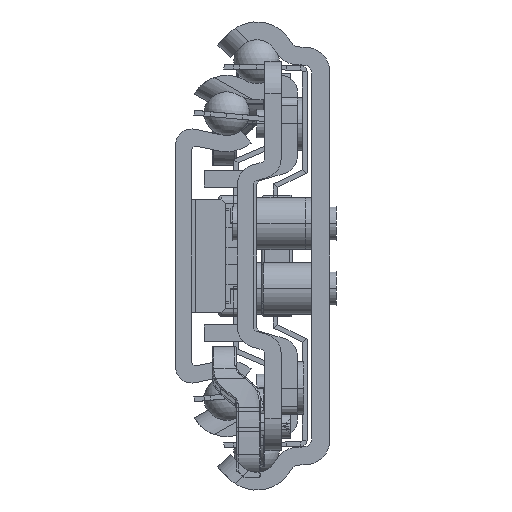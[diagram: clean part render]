
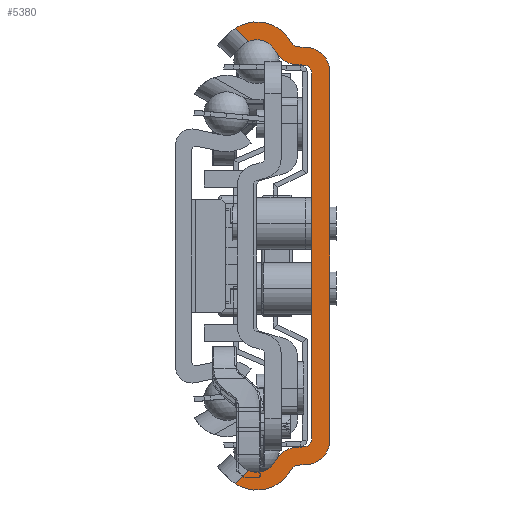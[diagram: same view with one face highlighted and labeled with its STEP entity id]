
A CAD part, left-side view. The second image highlights one B-rep face of the part: STEP entity #5380.
In plain terms, the highlighted planar face has unit normal (-1, 0, 0).
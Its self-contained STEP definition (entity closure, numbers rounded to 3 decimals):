
#1=DIRECTION('',(0.,0.717,-0.697));
#2=VECTOR('',#1,2.305);
#3=CARTESIAN_POINT('',(-550.,9.972,-26.461));
#4=LINE('',#3,#2);
#5=CARTESIAN_POINT('',(-550.,9.,-24.05));
#6=DIRECTION('',(-1.,0.,0.));
#7=DIRECTION('',(0.,0.374,-0.927));
#8=AXIS2_PLACEMENT_3D('',#5,#6,#7);
#10=CARTESIAN_POINT('',(-550.,4.005,-26.582));
#11=DIRECTION('',(-1.,0.,0.));
#12=DIRECTION('',(0.,0.07,0.998));
#13=AXIS2_PLACEMENT_3D('',#10,#11,#12);
#15=DIRECTION('',(0.,-0.998,0.07));
#16=VECTOR('',#15,1.087);
#17=CARTESIAN_POINT('',(-550.,4.214,-23.589));
#18=LINE('',#17,#16);
#19=DIRECTION('',(0.,0.,1.));
#20=VECTOR('',#19,45.032);
#21=CARTESIAN_POINT('',(-550.,2.2,-22.516));
#22=LINE('',#21,#20);
#23=DIRECTION('',(0.,0.998,0.07));
#24=VECTOR('',#23,1.087);
#25=CARTESIAN_POINT('',(-550.,3.13,23.514));
#26=LINE('',#25,#24);
#27=CARTESIAN_POINT('',(-550.,4.005,26.582));
#28=DIRECTION('',(-1.,0.,0.));
#29=DIRECTION('',(0.,0.892,-0.452));
#30=AXIS2_PLACEMENT_3D('',#27,#28,#29);
#32=CARTESIAN_POINT('',(-550.,9.,24.05));
#33=DIRECTION('',(-1.,0.,0.));
#34=DIRECTION('',(0.,-0.892,0.452));
#35=AXIS2_PLACEMENT_3D('',#32,#33,#34);
#37=DIRECTION('',(0.,-0.717,-0.697));
#38=VECTOR('',#37,2.305);
#39=CARTESIAN_POINT('',(-550.,11.624,28.069));
#40=LINE('',#39,#38);
#41=CARTESIAN_POINT('',(-550.,9.,24.05));
#42=DIRECTION('',(1.,0.,0.));
#43=DIRECTION('',(0.,0.547,0.837));
#44=AXIS2_PLACEMENT_3D('',#41,#42,#43);
#46=DIRECTION('',(0.,-0.998,-0.07));
#47=VECTOR('',#46,1.161);
#48=CARTESIAN_POINT('',(-550.,3.949,25.776));
#49=LINE('',#48,#47);
#50=CARTESIAN_POINT('',(-550.,3.,22.702));
#51=DIRECTION('',(-1.,0.,0.));
#52=DIRECTION('',(0.,-1.,0.));
#53=AXIS2_PLACEMENT_3D('',#50,#51,#52);
#55=DIRECTION('',(0.,0.,-1.));
#56=VECTOR('',#55,45.405);
#57=CARTESIAN_POINT('',(-550.,0.,22.702));
#58=LINE('',#57,#56);
#59=CARTESIAN_POINT('',(-550.,3.,-22.702));
#60=DIRECTION('',(-1.,0.,0.));
#61=DIRECTION('',(0.,-0.07,-0.998));
#62=AXIS2_PLACEMENT_3D('',#59,#60,#61);
#64=DIRECTION('',(0.,0.998,-0.07));
#65=VECTOR('',#64,1.161);
#66=CARTESIAN_POINT('',(-550.,2.791,-25.695));
#67=LINE('',#66,#65);
#68=CARTESIAN_POINT('',(-550.,9.,-24.05));
#69=DIRECTION('',(1.,0.,0.));
#70=DIRECTION('',(0.,-0.883,-0.47));
#71=AXIS2_PLACEMENT_3D('',#68,#69,#70);
#79=CARTESIAN_POINT('',(-550.,11.624,-28.069));
#103=CARTESIAN_POINT('',(-550.,9.972,-26.461));
#195=CARTESIAN_POINT('',(-550.,11.624,28.069));
#201=CARTESIAN_POINT('',(-550.,3.879,26.774));
#202=DIRECTION('',(1.,0.,0.));
#203=DIRECTION('',(0.,0.07,-0.998));
#204=AXIS2_PLACEMENT_3D('',#201,#202,#203);
#1227=CARTESIAN_POINT('',(-550.,3.879,-26.774));
#1228=DIRECTION('',(1.,0.,0.));
#1229=DIRECTION('',(0.,0.883,0.47));
#1230=AXIS2_PLACEMENT_3D('',#1227,#1228,#1229);
#2322=CARTESIAN_POINT('',(-550.,3.2,-22.516));
#2323=DIRECTION('',(1.,0.,0.));
#2324=DIRECTION('',(0.,-1.,0.));
#2325=AXIS2_PLACEMENT_3D('',#2322,#2323,#2324);
#2340=CARTESIAN_POINT('',(-550.,3.2,22.516));
#2341=DIRECTION('',(1.,0.,0.));
#2342=DIRECTION('',(0.,-0.07,0.998));
#2343=AXIS2_PLACEMENT_3D('',#2340,#2341,#2342);
#2364=CARTESIAN_POINT('',(-550.,9.972,26.461));
#4197=CARTESIAN_POINT('',(-550.,2.2,-22.516));
#4199=VERTEX_POINT('',#4197);
#4201=CARTESIAN_POINT('',(-550.,3.13,-23.514));
#4203=VERTEX_POINT('',#4201);
#4205=CARTESIAN_POINT('',(-550.,3.13,23.514));
#4207=VERTEX_POINT('',#4205);
#4209=CARTESIAN_POINT('',(-550.,2.2,22.516));
#4211=VERTEX_POINT('',#4209);
#4213=CARTESIAN_POINT('',(-550.,3.949,25.776));
#4215=VERTEX_POINT('',#4213);
#4217=CARTESIAN_POINT('',(-550.,4.762,26.304));
#4219=VERTEX_POINT('',#4217);
#4221=CARTESIAN_POINT('',(-550.,4.762,-26.304));
#4223=VERTEX_POINT('',#4221);
#4225=CARTESIAN_POINT('',(-550.,3.949,-25.776));
#4227=VERTEX_POINT('',#4225);
#4229=CARTESIAN_POINT('',(-550.,4.214,-23.589));
#4230=CARTESIAN_POINT('',(-550.,6.681,-25.226));
#4231=VERTEX_POINT('',#4229);
#4232=VERTEX_POINT('',#4230);
#4237=CARTESIAN_POINT('',(-550.,6.681,25.226));
#4238=CARTESIAN_POINT('',(-550.,4.214,23.589));
#4239=VERTEX_POINT('',#4237);
#4240=VERTEX_POINT('',#4238);
#4245=CARTESIAN_POINT('',(-550.,0.,22.702));
#4246=CARTESIAN_POINT('',(-550.,2.791,25.695));
#4247=VERTEX_POINT('',#4245);
#4248=VERTEX_POINT('',#4246);
#4253=CARTESIAN_POINT('',(-550.,2.791,-25.695));
#4254=CARTESIAN_POINT('',(-550.,0.,-22.702));
#4255=VERTEX_POINT('',#4253);
#4256=VERTEX_POINT('',#4254);
#4603=VERTEX_POINT('',#79);
#4611=VERTEX_POINT('',#103);
#4612=VERTEX_POINT('',#2364);
#4620=VERTEX_POINT('',#195);
#5333=CARTESIAN_POINT('',(-550.,0.,0.));
#5334=DIRECTION('',(1.,0.,0.));
#5335=DIRECTION('',(0.,-1.,0.));
#5336=AXIS2_PLACEMENT_3D('',#5333,#5334,#5335);
#5337=PLANE('',#5336);
#5339=ORIENTED_EDGE('',*,*,#5338,.F.);
#5341=ORIENTED_EDGE('',*,*,#5340,.T.);
#5343=ORIENTED_EDGE('',*,*,#5342,.F.);
#5345=ORIENTED_EDGE('',*,*,#5344,.T.);
#5347=ORIENTED_EDGE('',*,*,#5346,.F.);
#5349=ORIENTED_EDGE('',*,*,#5348,.T.);
#5351=ORIENTED_EDGE('',*,*,#5350,.F.);
#5353=ORIENTED_EDGE('',*,*,#5352,.T.);
#5355=ORIENTED_EDGE('',*,*,#5354,.F.);
#5357=ORIENTED_EDGE('',*,*,#5356,.T.);
#5359=ORIENTED_EDGE('',*,*,#5358,.F.);
#5361=ORIENTED_EDGE('',*,*,#5360,.T.);
#5363=ORIENTED_EDGE('',*,*,#5362,.F.);
#5365=ORIENTED_EDGE('',*,*,#5364,.T.);
#5367=ORIENTED_EDGE('',*,*,#5366,.F.);
#5369=ORIENTED_EDGE('',*,*,#5368,.T.);
#5371=ORIENTED_EDGE('',*,*,#5370,.F.);
#5373=ORIENTED_EDGE('',*,*,#5372,.T.);
#5375=ORIENTED_EDGE('',*,*,#5374,.F.);
#5377=ORIENTED_EDGE('',*,*,#5376,.T.);
#5378=EDGE_LOOP('',(#5339,#5341,#5343,#5345,#5347,#5349,#5351,#5353,#5355,#5357,
#5359,#5361,#5363,#5365,#5367,#5369,#5371,#5373,#5375,#5377));
#5379=FACE_OUTER_BOUND('',#5378,.F.);
#9=CIRCLE('',#8,2.6);
#14=CIRCLE('',#13,3.);
#31=CIRCLE('',#30,3.);
#36=CIRCLE('',#35,2.6);
#45=CIRCLE('',#44,4.8);
#54=CIRCLE('',#53,3.);
#63=CIRCLE('',#62,3.);
#72=CIRCLE('',#71,4.8);
#205=CIRCLE('',#204,1.);
#1231=CIRCLE('',#1230,1.);
#2326=CIRCLE('',#2325,1.);
#2344=CIRCLE('',#2343,1.);
#5338=EDGE_CURVE('',#4611,#4603,#4,.T.);
#5340=EDGE_CURVE('',#4611,#4232,#9,.T.);
#5342=EDGE_CURVE('',#4231,#4232,#14,.T.);
#5344=EDGE_CURVE('',#4231,#4203,#18,.T.);
#5346=EDGE_CURVE('',#4199,#4203,#2326,.T.);
#5348=EDGE_CURVE('',#4199,#4211,#22,.T.);
#5350=EDGE_CURVE('',#4207,#4211,#2344,.T.);
#5352=EDGE_CURVE('',#4207,#4240,#26,.T.);
#5354=EDGE_CURVE('',#4239,#4240,#31,.T.);
#5356=EDGE_CURVE('',#4239,#4612,#36,.T.);
#5358=EDGE_CURVE('',#4620,#4612,#40,.T.);
#5360=EDGE_CURVE('',#4620,#4219,#45,.T.);
#5362=EDGE_CURVE('',#4215,#4219,#205,.T.);
#5364=EDGE_CURVE('',#4215,#4248,#49,.T.);
#5366=EDGE_CURVE('',#4247,#4248,#54,.T.);
#5368=EDGE_CURVE('',#4247,#4256,#58,.T.);
#5370=EDGE_CURVE('',#4255,#4256,#63,.T.);
#5372=EDGE_CURVE('',#4255,#4227,#67,.T.);
#5374=EDGE_CURVE('',#4223,#4227,#1231,.T.);
#5376=EDGE_CURVE('',#4223,#4603,#72,.T.);
#5380=ADVANCED_FACE('',(#5379),#5337,.F.);
